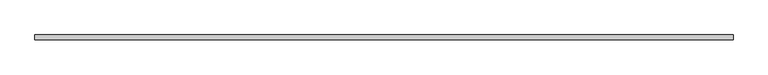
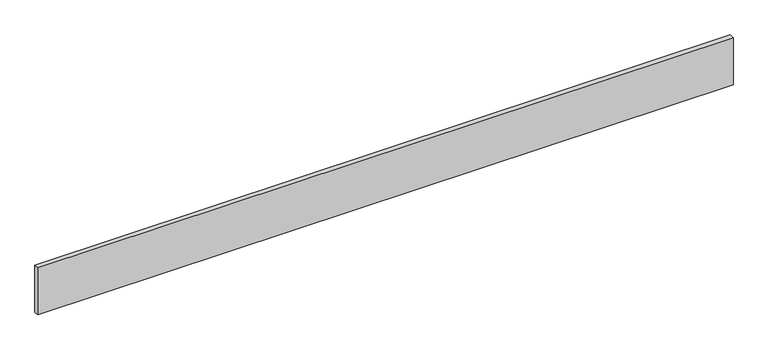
"""IFC4 building model written with IfcOpenShell, lengths in millimetres: beam geometry, Trus Joist - Rim Board Material : TJ® Rim Board – 11 7/8 x 1 1/8”."""

import ifcopenshell
import ifcopenshell.guid

model = None  # the IFC model being written
_history = None  # IfcOwnerHistory: only IFC2X3 demands one
_inside = {}  # id of a spatial element -> (the spatial element, [elements in it])
_under = {}  # id of a project, library or spatial element -> (it, [spatial elements below it])
_declared = {}  # id of a project -> (the project, [libraries it declares])
_typed = {}  # id of a type object -> (the type object, [elements of that type])
_made_of = {}  # id of a material, layer set ... -> (it, [elements and type objects made of it])


def new_model(schema):
    """Start an empty IFC model of exactly this schema.

    Asked for "IFC4X3", IfcOpenShell would pick the latest addendum, in which some entities
    have other attributes; the version numbers below select the first issue.
    IFC2X3 requires an IfcOwnerHistory on every rooted entity: one is made here for all.
    """
    global model, _history
    if schema == "IFC4X3":
        model = ifcopenshell.file(schema_version=(4, 3, 0, 0))
    else:
        model = ifcopenshell.file(schema=schema)
    _inside.clear()
    _under.clear()
    _declared.clear()
    _typed.clear()
    _made_of.clear()
    _history = None
    if model.schema == "IFC2X3":
        org = make("IfcOrganization", Name="unknown")
        user = make(
            "IfcPersonAndOrganization",
            ThePerson=make("IfcPerson", FamilyName="unknown"),
            TheOrganization=org,
        )
        app = make(
            "IfcApplication",
            ApplicationDeveloper=org,
            Version="unknown",
            ApplicationFullName="unknown",
            ApplicationIdentifier="unknown",
        )
        _history = make(
            "IfcOwnerHistory",
            OwningUser=user,
            OwningApplication=app,
            ChangeAction="ADDED",
            CreationDate=0,
        )
    return model


def make(cls, **values):
    """One entity of the class cls with the attributes given. An attribute that is None is left unset."""
    return model.create_entity(
        cls, **{name: value for name, value in values.items() if value is not None}
    )


def rooted(cls, **values):
    """An entity with a GlobalId (a new one), such as an element, a storey or a relation."""
    return make(cls, GlobalId=ifcopenshell.guid.new(), OwnerHistory=_history, **values)


def si_unit(unit_type, name, prefix=None):
    """IfcSIUnit, for example si_unit("LENGTHUNIT", "METRE", prefix="MILLI")."""
    return make("IfcSIUnit", UnitType=unit_type, Prefix=prefix, Name=name)


def assignment(units):
    """IfcUnitAssignment: the units of a project."""
    return None if units is None else make("IfcUnitAssignment", Units=units)


def point(xyz):
    """IfcCartesianPoint."""
    return None if xyz is None else make("IfcCartesianPoint", Coordinates=xyz)


def direction(xyz):
    """IfcDirection."""
    return None if xyz is None else make("IfcDirection", DirectionRatios=xyz)


def frame(location, z_axis=None, x_axis=None):
    """IfcAxis2Placement3D, a coordinate frame: its origin and axes. An axis left out is left unset."""
    return make(
        "IfcAxis2Placement3D",
        Location=point(location),
        Axis=direction(z_axis),
        RefDirection=direction(x_axis),
    )


def origin():
    """The frame at (0, 0, 0) with its axes left unset."""
    return frame((0.0, 0.0, 0.0))


def place(relative_to, where):
    """IfcLocalPlacement: puts the frame where relative to a parent placement (None: the world)."""
    return make(
        "IfcLocalPlacement", PlacementRelTo=relative_to, RelativePlacement=where
    )


def context(
    kind, dimensions, precision=None, world=None, true_north=None, identifier=None
):
    """IfcGeometricRepresentationContext, for example the 3D "Model" context."""
    return make(
        "IfcGeometricRepresentationContext",
        ContextIdentifier=identifier,
        ContextType=kind,
        CoordinateSpaceDimension=dimensions,
        Precision=precision,
        WorldCoordinateSystem=world,
        TrueNorth=true_north,
    )


def project(units=None, contexts=None):
    """IfcProject with its units and contexts."""
    return rooted(
        "IfcProject",
        Name="project",
        RepresentationContexts=contexts,
        UnitsInContext=assignment(units),
    )


def spatial(cls, under=None, at=None, **own):
    """A site, building, storey or space (cls), placed at a placement, below another one or the project."""
    s = rooted(cls, ObjectPlacement=at, **own)
    if under is not None:
        _under.setdefault(under.id(), (under, []))[1].append(s)
    return s


def polyline(points):
    """IfcPolyline through the points."""
    return make("IfcPolyline", Points=[point(p) for p in points])


def outline(outer, holes=None, kind="AREA"):
    """IfcArbitraryClosedProfileDef: a profile drawn as a closed curve; with holes, ...WithVoids."""
    if holes is None:
        return make("IfcArbitraryClosedProfileDef", ProfileType=kind, OuterCurve=outer)
    return make(
        "IfcArbitraryProfileDefWithVoids",
        ProfileType=kind,
        OuterCurve=outer,
        InnerCurves=holes,
    )


def extrude(swept, where, along, depth):
    """IfcExtrudedAreaSolid: the profile swept, set in the frame where, extruded along a direction by depth."""
    return make(
        "IfcExtrudedAreaSolid",
        SweptArea=swept,
        Position=where,
        ExtrudedDirection=direction(along),
        Depth=depth,
    )


def shape(context_of_items, identifier, shape_type, items):
    """IfcShapeRepresentation: the items that make up one representation, for example the "Body"."""
    return make(
        "IfcShapeRepresentation",
        ContextOfItems=context_of_items,
        RepresentationIdentifier=identifier,
        RepresentationType=shape_type,
        Items=items,
    )


def source(mapping_origin, context_of_items, identifier, shape_type, items):
    """IfcRepresentationMap: a shape defined once, which mapped items show again and again."""
    return make(
        "IfcRepresentationMap",
        MappingOrigin=mapping_origin,
        MappedRepresentation=shape(context_of_items, identifier, shape_type, items),
    )


def transform(
    local_origin,
    x_axis=None,
    y_axis=None,
    z_axis=None,
    scale=None,
    scale2=None,
    scale3=None,
    uniform=True,
):
    """IfcCartesianTransformationOperator3D, or its non-uniform kind. x_axis, y_axis, z_axis: its Axis1, 2, 3."""
    if uniform:
        return make(
            "IfcCartesianTransformationOperator3D",
            Axis1=direction(x_axis),
            Axis2=direction(y_axis),
            LocalOrigin=point(local_origin),
            Scale=scale,
            Axis3=direction(z_axis),
        )
    return make(
        "IfcCartesianTransformationOperator3DnonUniform",
        Axis1=direction(x_axis),
        Axis2=direction(y_axis),
        LocalOrigin=point(local_origin),
        Scale=scale,
        Axis3=direction(z_axis),
        Scale2=scale2,
        Scale3=scale3,
    )


def mapped(mapping_source, mapping_target):
    """IfcMappedItem: shows the shape of a source again, moved by a transform."""
    return make(
        "IfcMappedItem", MappingSource=mapping_source, MappingTarget=mapping_target
    )


def made_of(thing, what):
    """Note that an element or type object is made of a material, layer set ...; save() writes the relation."""
    if what is not None:
        _made_of.setdefault(what.id(), (what, []))[1].append(thing)
    return thing


def element(
    cls,
    number,
    at=None,
    inside=None,
    cuts=None,
    type_object=None,
    material=None,
    context=None,
    identifier="Body",
    shape_type=None,
    held_by="IfcProductDefinitionShape",
    body=None,
    shapes=None,
    **own,
):
    """One element of the class cls, such as IfcWall. Its Tag is "e" and its number.

    at: its placement. inside: the storey or other place that contains it. cuts: it is an
    opening in that element (IfcRelVoidsElement). A single representation is given by context,
    identifier, shape_type and body (its items); several are given by shapes. held_by: the class
    of the entity that holds the representations. save() writes the other relations.
    """
    e = rooted(cls, Tag="e%d" % number, ObjectPlacement=at, **own)
    if body is not None:
        shapes = [shape(context, identifier, shape_type, body)]
    if shapes is not None:
        e.Representation = make(held_by, Representations=shapes)
    if inside is not None:
        _inside.setdefault(inside.id(), (inside, []))[1].append(e)
    if cuts is not None:
        rooted(
            "IfcRelVoidsElement", RelatingBuildingElement=cuts, RelatedOpeningElement=e
        )
    if type_object is not None:
        _typed.setdefault(type_object.id(), (type_object, []))[1].append(e)
    return made_of(e, material)


def aggregate(whole, parts):
    """IfcRelAggregates: a whole, such as a stair, and the parts it consists of."""
    return rooted("IfcRelAggregates", RelatingObject=whole, RelatedObjects=parts)


def save(model, path):
    """Write the relations noted so far, then the file.

    IfcRelAggregates (storeys below a building ...), IfcRelContainedInSpatialStructure (elements
    in a storey), IfcRelDefinesByType, IfcRelAssociatesMaterial and IfcRelDeclares: one each for
    every whole, place, type object, material and project.
    """
    for whole, parts in _under.values():
        aggregate(whole, parts)
    for where, things in _inside.values():
        rooted(
            "IfcRelContainedInSpatialStructure",
            RelatedElements=things,
            RelatingStructure=where,
        )
    for kind, things in _typed.values():
        rooted("IfcRelDefinesByType", RelatedObjects=things, RelatingType=kind)
    for what, things in _made_of.values():
        rooted("IfcRelAssociatesMaterial", RelatedObjects=things, RelatingMaterial=what)
    for by, libraries in _declared.values():
        rooted("IfcRelDeclares", RelatingContext=by, RelatedDefinitions=libraries)
    model.write(path)


def beam_8d425ead(model_context):
    return source(origin(), model_context, "Body", "SweptSolid", [
        extrude(outline(polyline([(2133.6, 14.2875), (2133.6, -14.2875), (-2089.15, -14.2875), (-2089.15, 14.2875), (2133.6, 14.2875)])), frame((0.0, 0.0, -150.8125), z_axis=(0.0, 0.0, 1.0), x_axis=(1.0, 0.0, 0.0)), (0.0, 0.0, 1.0), 301.625),
    ])


if __name__ == "__main__":
    model = new_model("IFC4")
    model_context = context("Model", 3, world=origin())
    ifc_project = project(units=[si_unit("LENGTHUNIT", "METRE", prefix="MILLI")], contexts=[model_context])
    site = spatial("IfcSite", under=ifc_project)
    building = spatial("IfcBuilding", under=site)
    placement = place(None, origin())
    beam_shape = beam_8d425ead(model_context)
    element("IfcBeam", 1, ObjectType="Trus Joist - Rim Board Material : TJ® Rim Board – 11 7/8 x 1 1/8”", at=placement, inside=building, context=model_context, shape_type="MappedRepresentation", body=[
        mapped(beam_shape, transform((0.0, 0.0, 0.0), x_axis=(1.0, 0.0, 0.0), y_axis=(0.0, 1.0, 0.0), z_axis=(0.0, 0.0, 1.0))),
    ])
    save(model, "model.ifc")
